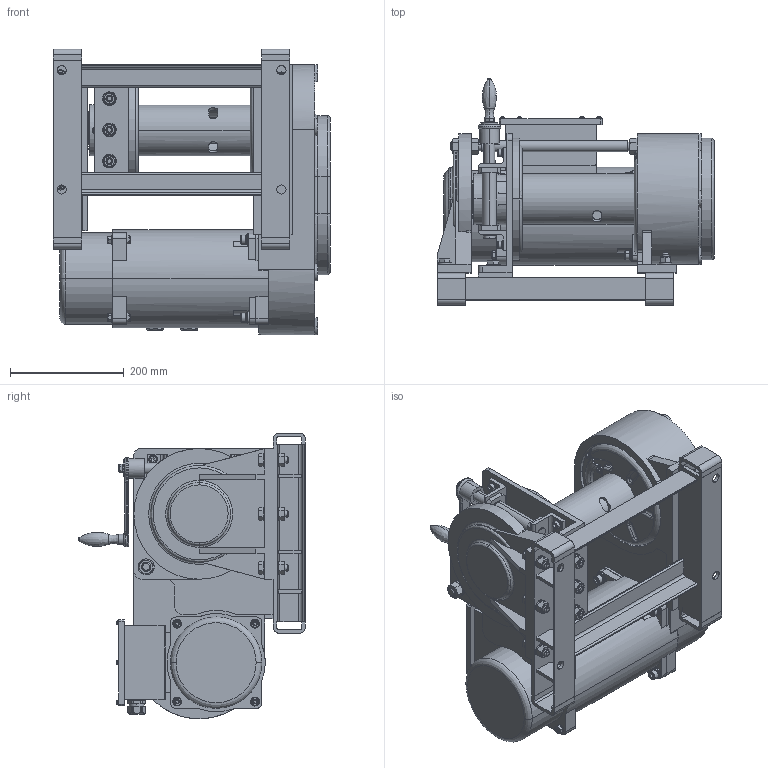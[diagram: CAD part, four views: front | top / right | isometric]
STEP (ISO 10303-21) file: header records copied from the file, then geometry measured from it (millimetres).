
FILE_DESCRIPTION( (''), '2;1');
FILE_NAME ('BMW-501-SC.stp','2023-05-15T16:50:46',(''),(''),'spGate 19.8.2 (****-****-****-****)','','');
FILE_SCHEMA (('AUTOMOTIVE_DESIGN'));
Length unit declared in the file: millimetre
Products named in the file (2): Assembly; BMW-501-SC-prt0
Assembly tree (1 placements, depth 2):
  Assembly
    BMW-501-SC-prt0
Bounding box: 489 x 400.3 x 502.8 mm (x, y, z)
Volume: 26337683.3 mm3; surface area: 1770331.5 mm2
Topology: 1 solids, 1 shells, 2796 faces, 7184 edges, 4486 vertices
Faces by surface type: plane 1545, cylinder 752, bspline 441, sphere 58
Entity records: 149397 total; most frequent: CARTESIAN_POINT 27156, ORIENTED_EDGE 14244, DIRECTION 13195, COLOUR_RGB 9919, PRESENTATION_STYLE_ASSIGNMENT 9919, STYLED_ITEM 9919, EDGE_CURVE 7122, DRAUGHTING_PRE_DEFINED_CURVE_FONT 7122
